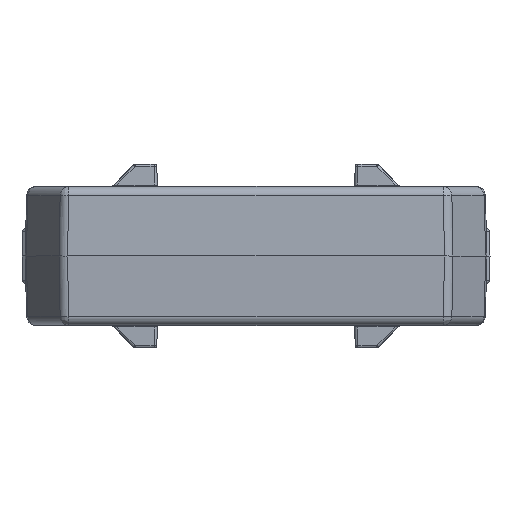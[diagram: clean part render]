
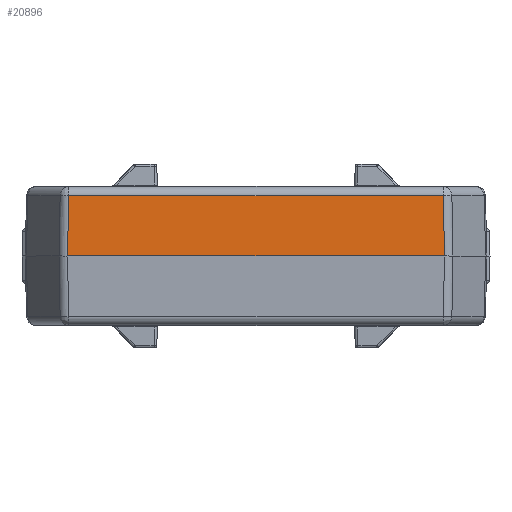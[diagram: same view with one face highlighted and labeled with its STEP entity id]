
A CAD part, left-side view. The second image highlights one B-rep face of the part: STEP entity #20896.
In plain terms, the highlighted planar face has unit normal (-1, 0, 0.026).
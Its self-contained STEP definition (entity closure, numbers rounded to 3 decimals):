
#4652 = DIRECTION ( 'NONE',  ( 0., 1., 0. ) ) ;
#15574 = ORIENTED_EDGE ( 'NONE', *, *, #63178, .T. ) ;
#16899 = VERTEX_POINT ( 'NONE', #89658 ) ;
#19928 = DIRECTION ( 'NONE',  ( 0., 1., 0. ) ) ;
#20896 = ADVANCED_FACE ( 'NONE', ( #38109 ), #66441, .T. ) ;
#24309 = VECTOR ( 'NONE', #19928, 1000. ) ;
#25290 = DIRECTION ( 'NONE',  ( -1., 0., 0.026 ) ) ;
#27669 = CARTESIAN_POINT ( 'NONE',  ( -112.435, 0., 21.592 ) ) ;
#28058 = ORIENTED_EDGE ( 'NONE', *, *, #49263, .T. ) ;
#28840 = VERTEX_POINT ( 'NONE', #40242 ) ;
#29941 = VERTEX_POINT ( 'NONE', #36334 ) ;
#30057 = CARTESIAN_POINT ( 'NONE',  ( -113., 0., 0. ) ) ;
#31169 = CARTESIAN_POINT ( 'NONE',  ( -112.435, 67.374, 21.592 ) ) ;
#33050 = CARTESIAN_POINT ( 'NONE',  ( -112.435, -68.513, 21.592 ) ) ;
#33711 = CARTESIAN_POINT ( 'NONE',  ( -113., -67.701, 0. ) ) ;
#36334 = CARTESIAN_POINT ( 'NONE',  ( -112.435, 67.374, 21.592 ) ) ;
#38109 = FACE_OUTER_BOUND ( 'NONE', #48408, .T. ) ;
#40242 = CARTESIAN_POINT ( 'NONE',  ( -113., -67.701, 0. ) ) ;
#46527 = CARTESIAN_POINT ( 'NONE',  ( -112.812, -67.592, 7.197 ) ) ;
#47816 = LINE ( 'NONE', #27669, #24309 ) ;
#48408 = EDGE_LOOP ( 'NONE', ( #15574, #84463, #69074, #28058 ) ) ;
#49263 = EDGE_CURVE ( 'NONE', #28840, #69073, #90160, .T. ) ;
#54684 = DIRECTION ( 'NONE',  ( 0., -1., 0. ) ) ;
#55819 = AXIS2_PLACEMENT_3D ( 'NONE', #33050, #25290, #4652 ) ;
#63178 = EDGE_CURVE ( 'NONE', #69073, #29941, #47816, .T. ) ;
#65237 = LINE ( 'NONE', #30057, #80329 ) ;
#66441 = PLANE ( 'NONE',  #55819 ) ;
#66800 = CARTESIAN_POINT ( 'NONE',  ( -112.812, 67.592, 7.197 ) ) ;
#69073 = VERTEX_POINT ( 'NONE', #69783 ) ;
#69074 = ORIENTED_EDGE ( 'NONE', *, *, #83527, .T. ) ;
#69783 = CARTESIAN_POINT ( 'NONE',  ( -112.435, -67.374, 21.592 ) ) ;
#72289 = EDGE_CURVE ( 'NONE', #29941, #16899, #86210, .T. ) ;
#74379 = CARTESIAN_POINT ( 'NONE',  ( -112.623, -67.483, 14.394 ) ) ;
#80329 = VECTOR ( 'NONE', #54684, 1000. ) ;
#81687 = CARTESIAN_POINT ( 'NONE',  ( -112.435, -67.374, 21.592 ) ) ;
#83527 = EDGE_CURVE ( 'NONE', #16899, #28840, #65237, .T. ) ;
#84463 = ORIENTED_EDGE ( 'NONE', *, *, #72289, .T. ) ;
#86210 = B_SPLINE_CURVE_WITH_KNOTS ( 'NONE', 3,
 ( #31169, #86938, #66800, #87385 ),
 .UNSPECIFIED., .F., .F.,
 ( 4, 4 ),
 ( 0., 1. ),
 .UNSPECIFIED. ) ;
#86938 = CARTESIAN_POINT ( 'NONE',  ( -112.623, 67.483, 14.394 ) ) ;
#87385 = CARTESIAN_POINT ( 'NONE',  ( -113., 67.701, 0. ) ) ;
#89658 = CARTESIAN_POINT ( 'NONE',  ( -113., 67.701, 0. ) ) ;
#90160 = B_SPLINE_CURVE_WITH_KNOTS ( 'NONE', 3,
 ( #33711, #46527, #74379, #81687 ),
 .UNSPECIFIED., .F., .F.,
 ( 4, 4 ),
 ( 0., 1. ),
 .UNSPECIFIED. ) ;
